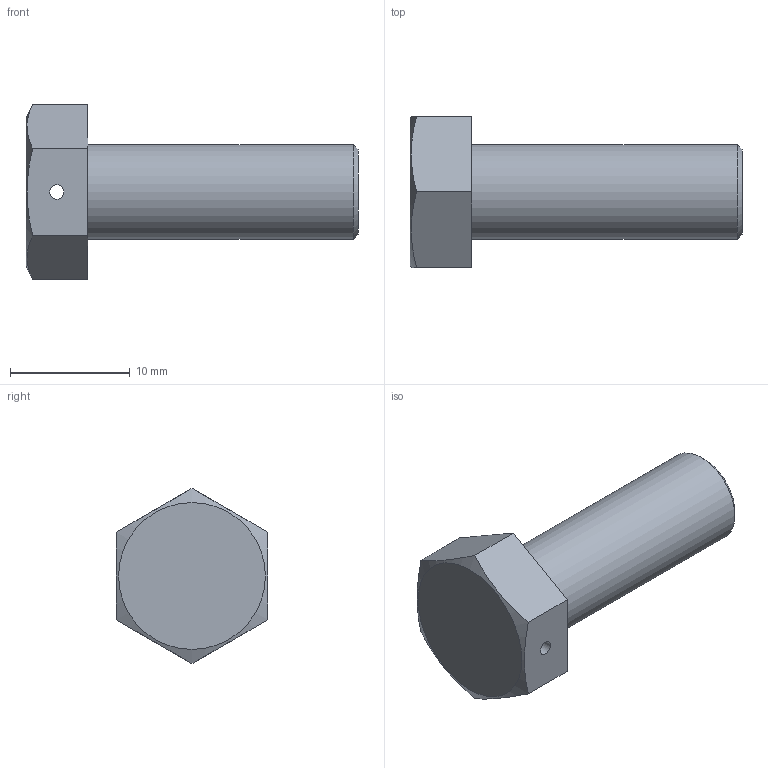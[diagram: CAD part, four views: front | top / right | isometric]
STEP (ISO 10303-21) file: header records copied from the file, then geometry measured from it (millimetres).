
FILE_DESCRIPTION(/* description */ (''),/* implementation_level */ '2;1');
FILE_NAME(/* name */ 'E:/hidden/Engineering Projects/Leslie Controls SuperTyfon/CAD/Components/25200 Cap Screw, Back Cover.step',/* time_stamp */ '2022-08-18T19:36:14+10:00',/* author */ (''),/* organization */ (''),/* preprocessor_version */ 'ST-DEVELOPER v19',/* originating_system */ 'Autodesk Translation Framework v11.7.0.108',/* authorisation */ '');
FILE_SCHEMA (('AUTOMOTIVE_DESIGN { 1 0 10303 214 3 1 1 }'));
Length unit declared in the file: inch
Products named in the file (1): 25200 Cap Screw, Back Cover
Bounding box: 27.78 x 12.7 x 14.66 mm (x, y, z)
Volume: 1820.6 mm3; surface area: 1100.7 mm2
Topology: 1 solids, 1 shells, 13 faces, 29 edges, 19 vertices
Faces by surface type: plane 9, cylinder 2, cone 2
Full cylindrical faces by diameter (mm): 1.191 x1, 7.938 x1
Entity records: 395 total; most frequent: CARTESIAN_POINT 74, ORIENTED_EDGE 58, DIRECTION 58, EDGE_CURVE 29, AXIS2_PLACEMENT_3D 21, VERTEX_POINT 19, EDGE_LOOP 16, LINE 16
